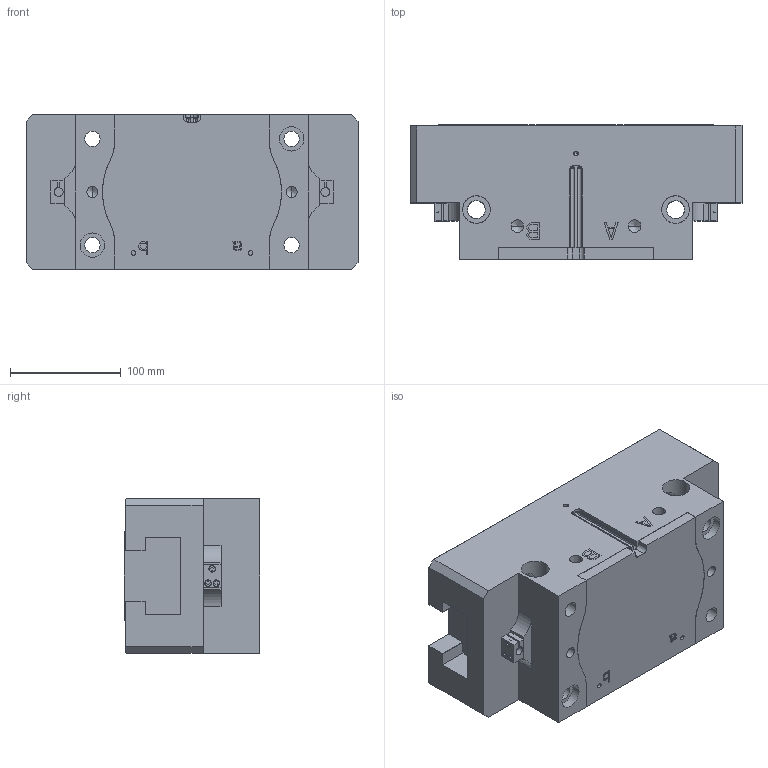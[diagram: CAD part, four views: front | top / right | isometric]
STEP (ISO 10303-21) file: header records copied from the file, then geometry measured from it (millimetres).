
FILE_DESCRIPTION (( 'STEP AP214' ), '1' );
FILE_NAME ('FPT-300A-1TEM.STEP', '2020-07-06T23:38:36', ( '' ), ( '' ), 'SwSTEP 2.0', 'SolidWorks 2016', '' );
FILE_SCHEMA (( 'AUTOMOTIVE_DESIGN' ));
Length unit declared in the file: millimetre
Products named in the file (7): NAUO1; NAUO2; NAUO8; NAUO3; NAUO4; FPT-300A-1TEM; NAUO7
Assembly tree (8 placements, depth 2):
  FPT-300A-1TEM
    NAUO1
    NAUO2
    NAUO3
    NAUO4  x2
    NAUO7
    NAUO8  x2
Bounding box: 300 x 122 x 140 mm (x, y, z)
Volume: 4023173.5 mm3; surface area: 406807.2 mm2
Topology: 8 solids, 8 shells, 629 faces, 1650 edges, 1063 vertices
Faces by surface type: plane 380, cylinder 181, cone 64, sphere 4
Entity records: 17638 total; most frequent: CARTESIAN_POINT 3736, DIRECTION 2840, ORIENTED_EDGE 2792, EDGE_CURVE 1396, LINE 1010, VECTOR 1010, VERTEX_POINT 925, AXIS2_PLACEMENT_3D 915
